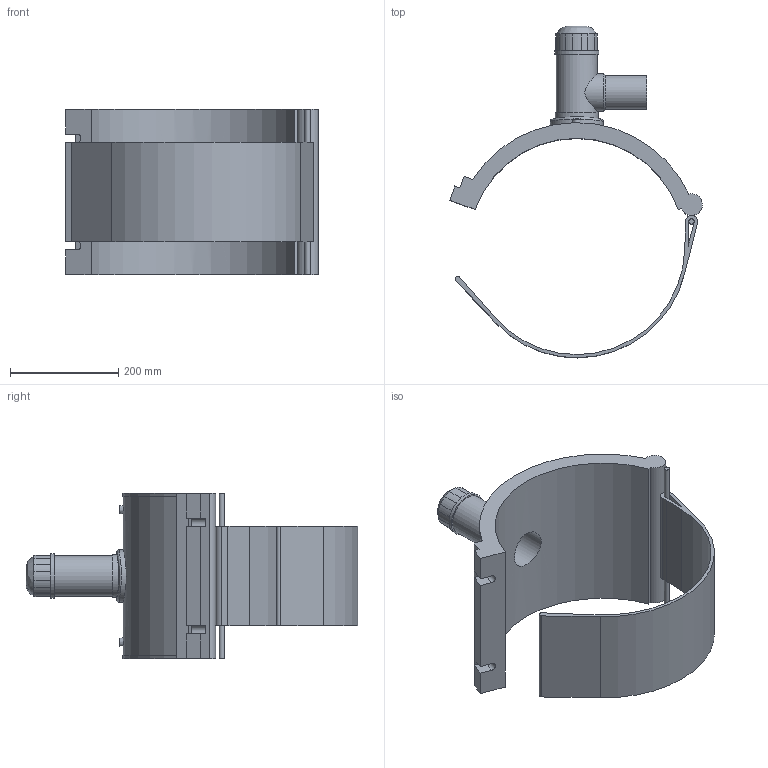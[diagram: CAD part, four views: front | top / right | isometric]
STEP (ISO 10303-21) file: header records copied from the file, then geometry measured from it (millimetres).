
FILE_DESCRIPTION(/* description */ ('PLASSON TAPPING TEE SADDLE 400mm x 63mm'),/* implementation_level */ '2;1');
FILE_NAME(/* name */ 'C:\Dropbox\KIMPROJECTS-Inventor 2019\99-16-3568-Processing\ElectroFusion Fittings\491304\491304400063.stp',/* time_stamp */ '2023-03-23T11:29:21+02:00',/* author */ ('KIM'),/* organization */ (''),/* preprocessor_version */ 'ST-DEVELOPER v17.2',/* originating_system */ 'Autodesk Inventor 2019',/* authorisation */ '');
FILE_SCHEMA (('AUTOMOTIVE_DESIGN { 1 0 10303 214 3 1 1 }'));
Length unit declared in the file: millimetre
Products named in the file (1): 491304400063
Bounding box: 467.25 x 613.99 x 306 mm (x, y, z)
Volume: 6281473.3 mm3; surface area: 793004.1 mm2
Topology: 2 solids, 2 shells, 91 faces, 229 edges, 157 vertices
Faces by surface type: cylinder 43, plane 43, cone 3, bspline 2
Full cylindrical faces by diameter (mm): 4 x2, 10 x3, 50.4 x1, 63 x1, 69.3 x1, 69.6 x1, 75.6 x1, 79.6 x1, 81.9 x1, 97.65 x1
Entity records: 3385 total; most frequent: CARTESIAN_POINT 1059, DIRECTION 493, ORIENTED_EDGE 460, EDGE_CURVE 230, AXIS2_PLACEMENT_3D 190, VERTEX_POINT 159, LINE 113, VECTOR 113
